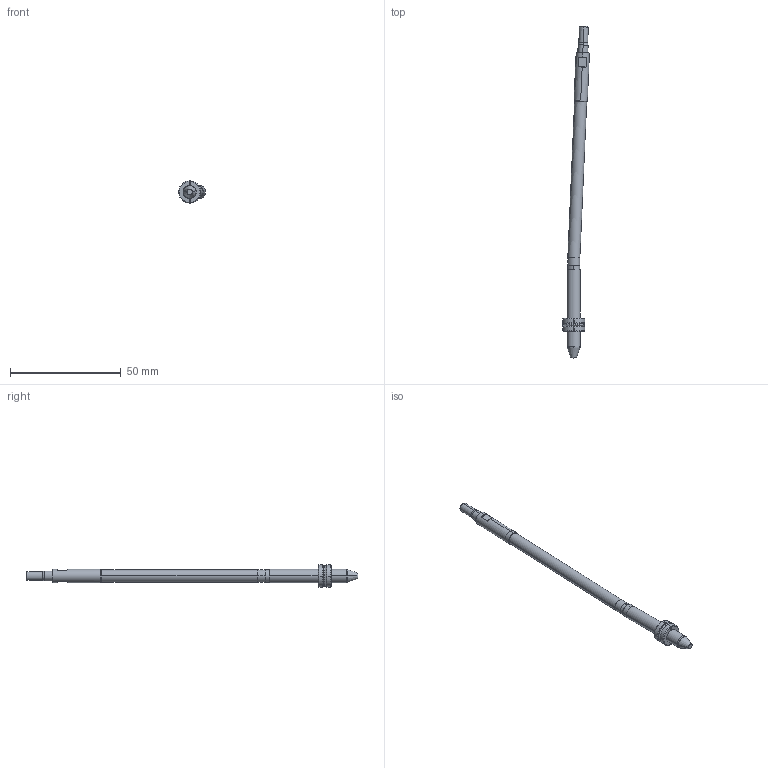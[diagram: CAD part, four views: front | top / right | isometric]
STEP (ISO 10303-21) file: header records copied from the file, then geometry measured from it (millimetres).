
FILE_DESCRIPTION (( 'STEP AP214' ), '1' );
FILE_NAME ('WP060060-EJE 2,5°.STEP', '2021-03-19T15:15:56', ( '' ), ( '' ), 'SwSTEP 2.0', 'SolidWorks 2019', '' );
FILE_SCHEMA (( 'AUTOMOTIVE_DESIGN' ));
Length unit declared in the file: millimetre
Products named in the file (6): WEB-006-9WP060030-6; WEB-008-JUNTA-JT7X1X9; WEB-007-9WP060060-F_WP060060-F-ON 2,5ø; WEB-001-9WP060030-1; WEB-002-9WP060030-2; WP060060-EJE 2,5°
Assembly tree (5 placements, depth 2):
  WP060060-EJE 2,5°
    WEB-001-9WP060030-1
    WEB-007-9WP060060-F_WP060060-F-ON 2,5ø
    WEB-002-9WP060030-2
    WEB-006-9WP060030-6
    WEB-008-JUNTA-JT7X1X9
Bounding box: 12.11 x 149.77 x 9.99 mm (x, y, z)
Volume: 3873.8 mm3; surface area: 3434.2 mm2
Topology: 6 solids, 6 shells, 112 faces, 262 edges, 164 vertices
Faces by surface type: cylinder 36, cone 28, plane 28, torus 20
Entity records: 3723 total; most frequent: CARTESIAN_POINT 714, DIRECTION 598, ORIENTED_EDGE 524, EDGE_CURVE 262, AXIS2_PLACEMENT_3D 256, VERTEX_POINT 164, CIRCLE 136, EDGE_LOOP 116
